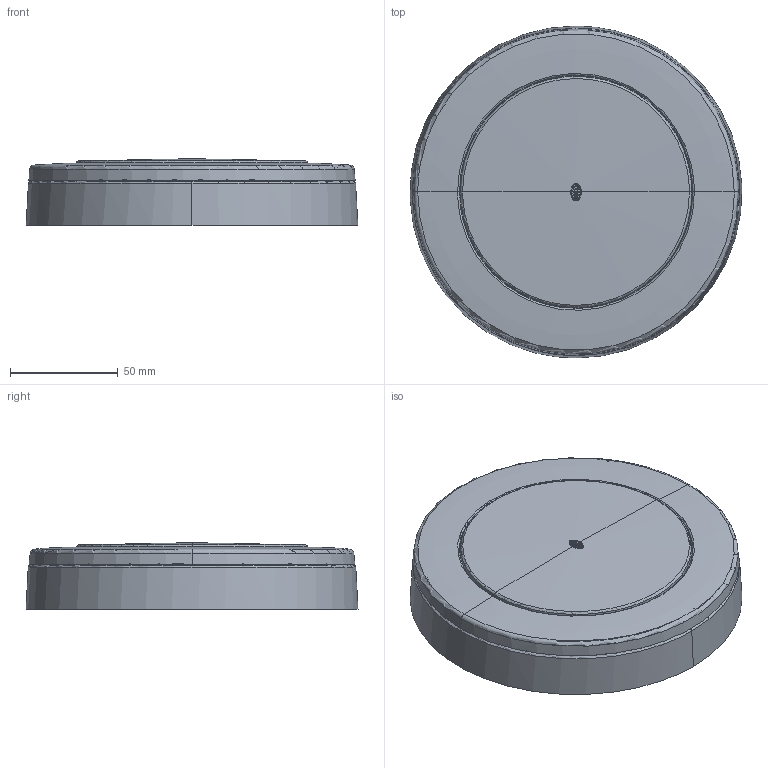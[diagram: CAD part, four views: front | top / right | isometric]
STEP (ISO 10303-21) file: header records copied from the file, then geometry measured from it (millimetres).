
FILE_DESCRIPTION(('CATIA V5 STEP Exchange','CAx-IF Rec.Pracs.--- Model Styling and Organization---1.5--- 2016-08-15','CAx-IF Rec.Pracs.---Supplemental Geometry---1.0---2011-11-01','CAx-IF Rec.Pracs.---Representation and Presentation of Product Manufacturing Information (PMI)---4.0---2014-10-13','CAx-IF Rec.Pracs.--- Composite Materials ---3.4---2017-06-13','CAx-IF Rec.Pracs.---Tessellated 3D Geometry---1.0---2015-12-17'),'2;1');
FILE_NAME('C:\Users\wallra4\OneDrive - FORVIA\Documents\raymonds documents\customer ddx\website uploads\980.630_xxx\files uploaded to website\980.631-XX_Euroled_Flush_Mount_.stp','2026-01-20T21:39:09+00:00',('none'),('none'),'CATIA Version 5-6 Release 2022 SP3 HF41','CATIA V5 STEP AP242 v2','none');
FILE_SCHEMA(('AP242_MANAGED_MODEL_BASED_3D_ENGINEERING_MIM_LF {1 0 10303 442 3 1 4}'));
Length unit declared in the file: millimetre
Products named in the file (1): 10003034474_D10_001
Bounding box: 154.04 x 154.15 x 31.1 mm (x, y, z)
Volume: 399321.8 mm3; surface area: 130141.1 mm2
Topology: 4 solids, 4 shells, 1540 faces, 3991 edges, 2370 vertices
Faces by surface type: bspline 478, torus 327, cone 219, plane 217, cylinder 153, sphere 146
Entity records: 77097 total; most frequent: CARTESIAN_POINT 49294, ORIENTED_EDGE 7762, EDGE_CURVE 3881, B_SPLINE_CURVE_WITH_KNOTS 3236, VERTEX_POINT 2370, DIRECTION 2124, EDGE_LOOP 1591, ADVANCED_FACE 1540
